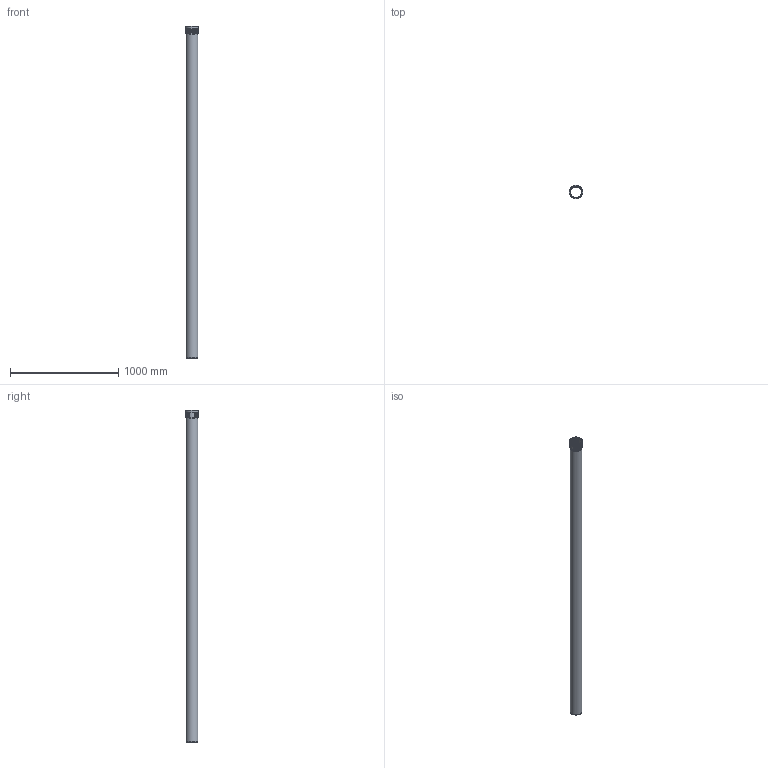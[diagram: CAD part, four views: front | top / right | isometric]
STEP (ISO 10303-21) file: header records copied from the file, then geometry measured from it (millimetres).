
FILE_DESCRIPTION(/* description */ (''),/* implementation_level */ '2;1');
FILE_NAME(/* name */ 'Z:\Geberit\Export\NewStep\390507.stp',/* time_stamp */ '2014-04-02T08:13:56+02:00',/* author */ ('ML'),/* organization */ (''),/* preprocessor_version */ 'ST-DEVELOPER v15.2',/* originating_system */ 'Autodesk Inventor 2014',/* authorisation */ '');
FILE_SCHEMA (('AUTOMOTIVE_DESIGN { 1 0 10303 214 3 1 1 }'));
Length unit declared in the file: millimetre
Products named in the file (3): 861444; 861585ohne; 390507
Bounding box: 127.4 x 127.4 x 3068.1 mm (x, y, z)
Volume: 3734447.6 mm3; surface area: 2080933.5 mm2
Topology: 2 solids, 2 shells, 47 faces, 104 edges, 71 vertices
Faces by surface type: torus 24, cylinder 11, plane 10, cone 2
Full cylindrical faces by diameter (mm): 103 x2, 110.2 x2, 111.1 x2, 114.7 x1, 118.3 x2, 120.2 x1, 127.4 x1
Entity records: 2003 total; most frequent: CARTESIAN_POINT 962, DIRECTION 182, ORIENTED_EDGE 174, AXIS2_PLACEMENT_3D 91, EDGE_CURVE 87, EDGE_LOOP 78, VERTEX_POINT 71, STYLED_ITEM 49
